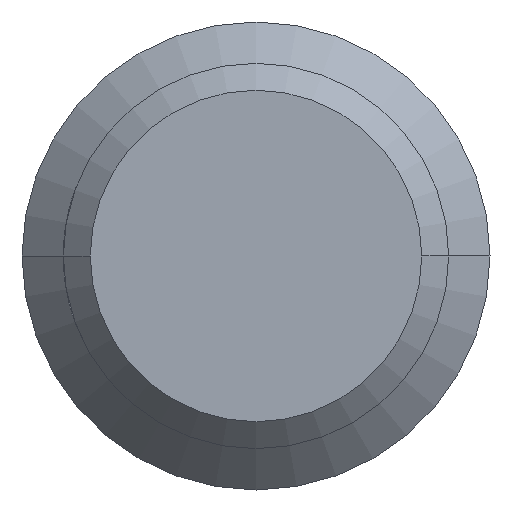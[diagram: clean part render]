
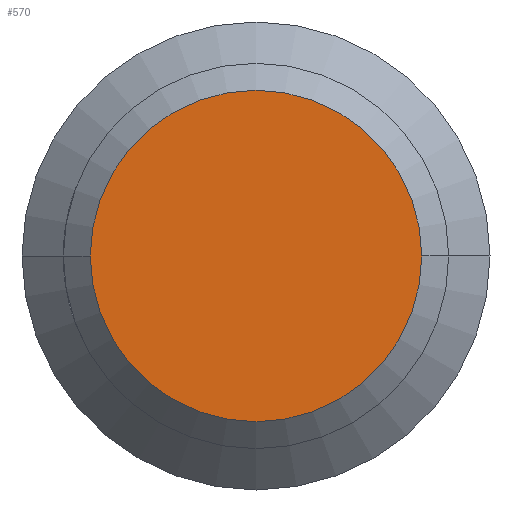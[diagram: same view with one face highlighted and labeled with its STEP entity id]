
A CAD part, left-side view. The second image highlights one B-rep face of the part: STEP entity #570.
In plain terms, the highlighted planar face has unit normal (-1, 0, 0).
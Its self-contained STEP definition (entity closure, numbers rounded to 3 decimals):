
#58 = CIRCLE ( 'NONE', #59, 6.02 ) ;
#59 = AXIS2_PLACEMENT_3D ( 'NONE', #60, #61, #62 ) ;
#60 = CARTESIAN_POINT ( 'NONE',  ( -180., 0., 0. ) ) ;
#61 = DIRECTION ( 'NONE',  ( -1., 0., 0. ) ) ;
#62 = DIRECTION ( 'NONE',  ( 0., -1., 0. ) ) ;
#213 = CIRCLE ( 'NONE', #214, 6.02 ) ;
#214 = AXIS2_PLACEMENT_3D ( 'NONE', #215, #216, #217 ) ;
#215 = CARTESIAN_POINT ( 'NONE',  ( -180., 0., 0. ) ) ;
#216 = DIRECTION ( 'NONE',  ( -1., 0., 0. ) ) ;
#217 = DIRECTION ( 'NONE',  ( 0., -1., 0. ) ) ;
#218 = CARTESIAN_POINT ( 'NONE',  ( -180., 6.02, 0. ) ) ;
#346 = CARTESIAN_POINT ( 'NONE',  ( -180., -6.02, 0. ) ) ;
#482 = VERTEX_POINT ( 'NONE', #218 ) ;
#512 = VERTEX_POINT ( 'NONE', #346 ) ;
#532 = EDGE_CURVE ( 'NONE', #512, #482, #58, .T. ) ;
#548 = EDGE_LOOP ( 'NONE', ( #649, #557 ) ) ;
#557 = ORIENTED_EDGE ( 'NONE', *, *, #532, .T. ) ;
#570 = ADVANCED_FACE ( 'NONE', ( #729 ), #730, .T. ) ;
#606 = EDGE_CURVE ( 'NONE', #482, #512, #213, .T. ) ;
#649 = ORIENTED_EDGE ( 'NONE', *, *, #606, .T. ) ;
#729 = FACE_OUTER_BOUND ( 'NONE', #548, .T. ) ;
#730 = PLANE ( 'NONE',  #731 ) ;
#731 = AXIS2_PLACEMENT_3D ( 'NONE', #732, #733, #734 ) ;
#732 = CARTESIAN_POINT ( 'NONE',  ( -180., 0., 0. ) ) ;
#733 = DIRECTION ( 'NONE',  ( -1., 0., 0. ) ) ;
#734 = DIRECTION ( 'NONE',  ( 0., -1., 0. ) ) ;
